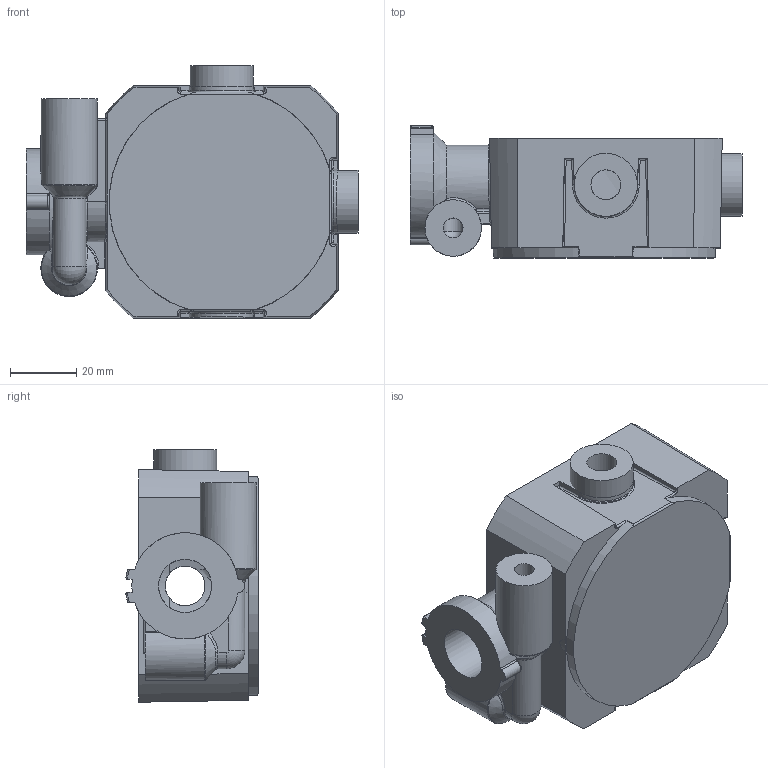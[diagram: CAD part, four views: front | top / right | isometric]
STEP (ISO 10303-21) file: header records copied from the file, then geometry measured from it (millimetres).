
FILE_DESCRIPTION(('STEP AP242'), '1');
FILE_NAME('扻豵鵨 3', '', ('UNSPECIFIED'), ('UNSPECIFIED'), 'C3D Converter', 'C3D Toolkit', '');
FILE_SCHEMA(('AP242_MANAGED_MODEL_BASED_3D_ENGINEERING_MIM_LF { 1 0 10303 442 1 1 4 }'));
Length unit declared in the file: millimetre
Bounding box: 100 x 39.82 x 76.03 mm (x, y, z)
Volume: 3122.7 mm3; surface area: 34407.9 mm2
Topology: 2 solids, 3 shells, 328 faces, 839 edges, 494 vertices
Faces by surface type: cylinder 106, plane 98, bspline 68, torus 33, cone 21, sphere 2
Full cylindrical faces by diameter (mm): 6 x2, 9 x2, 12 x2, 16 x1, 17 x1, 19 x2
Entity records: 16317 total; most frequent: CARTESIAN_POINT 9262, ORIENTED_EDGE 1606, DIRECTION 1267, EDGE_CURVE 804, VERTEX_POINT 494, AXIS2_PLACEMENT_3D 481, EDGE_LOOP 353, FACE_BOUND 337
